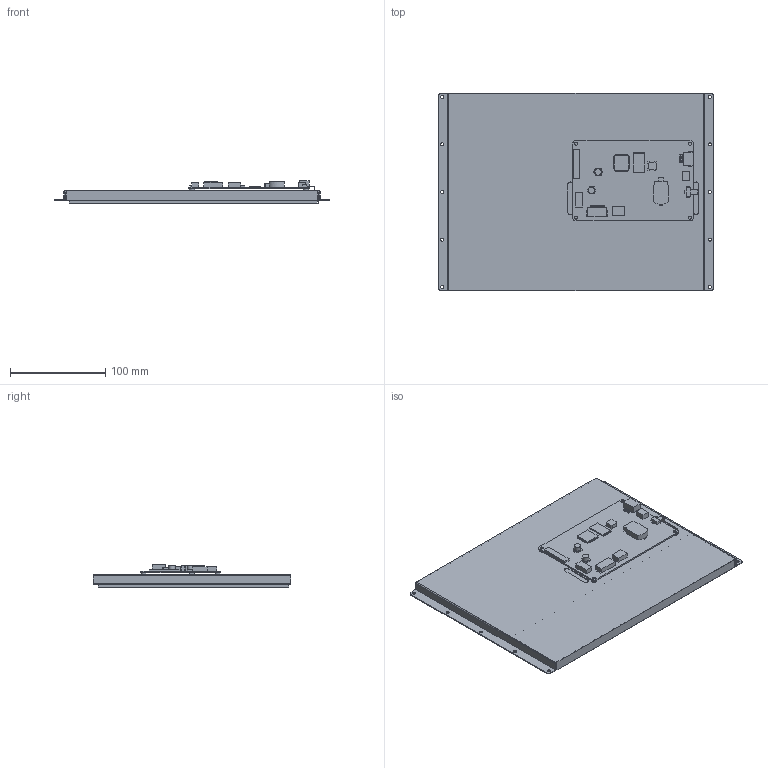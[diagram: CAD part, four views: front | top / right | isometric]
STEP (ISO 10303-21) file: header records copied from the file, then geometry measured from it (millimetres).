
FILE_DESCRIPTION(/* description */ (''),/* implementation_level */ '2;1');
FILE_NAME(/* name */ '',/* time_stamp */ '2021-04-20T11:28:44+08:00',/* author */ (''),/* organization */ (''),/* preprocessor_version */ 'ST-DEVELOPER v11',/* originating_system */ 'SIEMENS PLM Software NX 7.5',/* authorisation */ '');
FILE_SCHEMA (('AP203_CONFIGURATION_CONTROLLED_3D_DESIGN_OF_MECHANICAL_PARTS_AND_ASSEMBLIES_MIM_LF'));
Length unit declared in the file: millimetre
Products named in the file (1): SDWe121T87T
Bounding box: 288.8 x 207.4 x 23.6 mm (x, y, z)
Volume: 616688.1 mm3; surface area: 757497.1 mm2
Topology: 32 solids, 32 shells, 1537 faces, 4154 edges, 2812 vertices
Faces by surface type: plane 1479, cylinder 51, extrusion 7
Full cylindrical faces by diameter (mm): 3.2 x18, 5.3 x4, 6.776 x2
Entity records: 48787 total; most frequent: CARTESIAN_POINT 8799, ORIENTED_EDGE 7936, DIRECTION 7304, EDGE_CURVE 3968, VECTOR 3958, LINE 3951, VERTEX_POINT 2524, AXIS2_PLACEMENT_3D 1673
